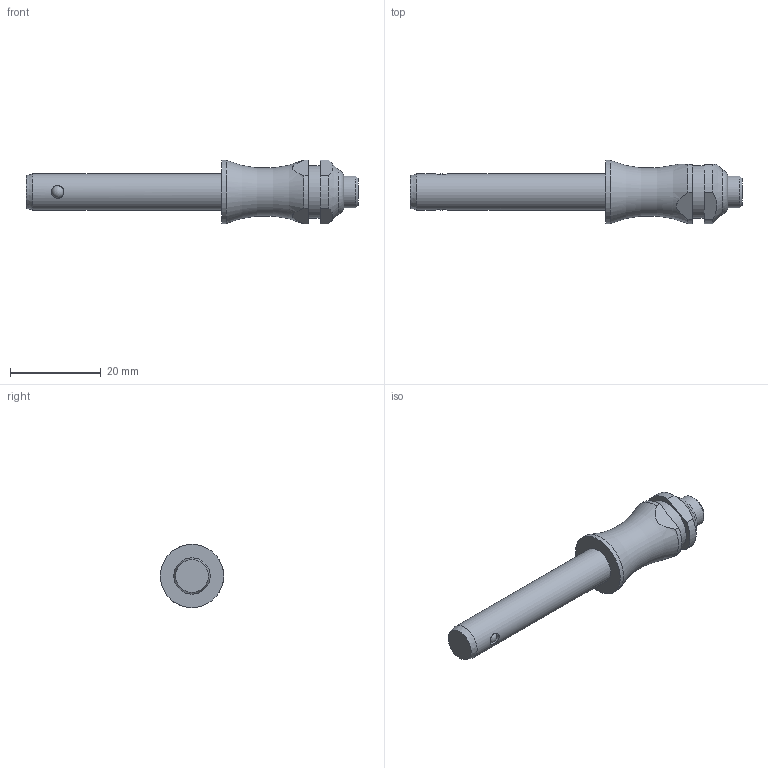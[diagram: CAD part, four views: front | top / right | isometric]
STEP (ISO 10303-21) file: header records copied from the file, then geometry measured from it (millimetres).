
FILE_DESCRIPTION( ( 'STEP AP203' ), '1' );
FILE_NAME( 'C:/Temp/Ganter_Step_05_03_2020/data/3_1/gn113_3/Stainless Steel-Ball lock pin GN 113.3-8-35 (activated).stp', '2020-03-12T08:18:25', ( 'License CC BY-ND 4.0' ), ( 'CADENAS' ), ' ', 'PARTsolutions', ' ' );
FILE_SCHEMA( ( 'CONFIG_CONTROL_DESIGN' ) );
Length unit declared in the file: millimetre
Products named in the file (1): _Stainless Steel-Ball lock pin GN 113.3-8-35 (activated)
Bounding box: 73.35 x 14 x 14 mm (x, y, z)
Volume: 5260.6 mm3; surface area: 2503.3 mm2
Topology: 1 solids, 1 shells, 30 faces, 72 edges, 45 vertices
Faces by surface type: cylinder 12, plane 11, cone 3, torus 2, sphere 2
Full cylindrical faces by diameter (mm): 2.78 x2, 7 x1, 8 x1, 11.6 x1, 14 x1
Entity records: 968 total; most frequent: CARTESIAN_POINT 321, DIRECTION 130, ORIENTED_EDGE 102, AXIS2_PLACEMENT_3D 56, EDGE_CURVE 51, EDGE_LOOP 46, VERTEX_POINT 39, FACE_OUTER_BOUND 38
